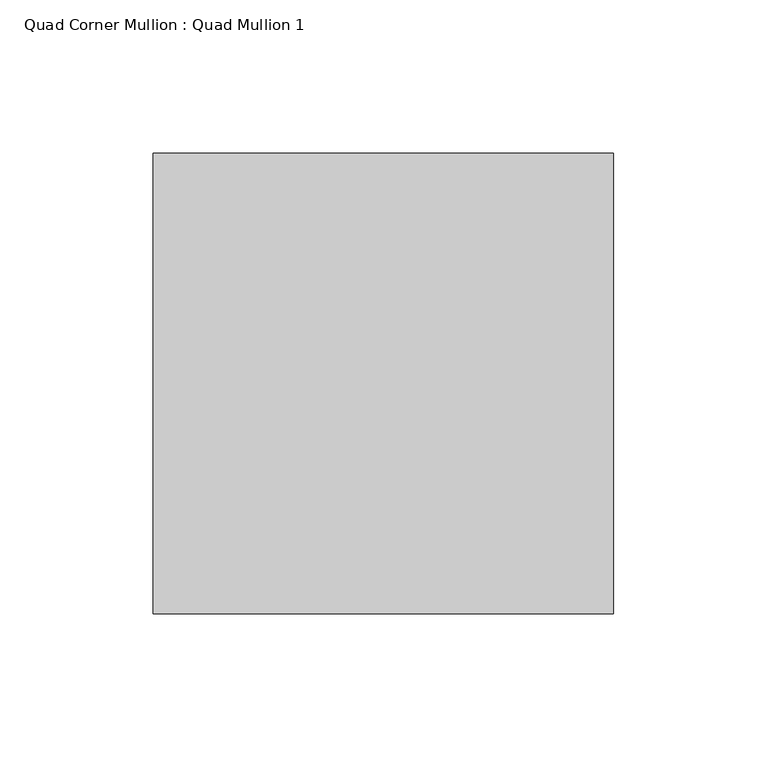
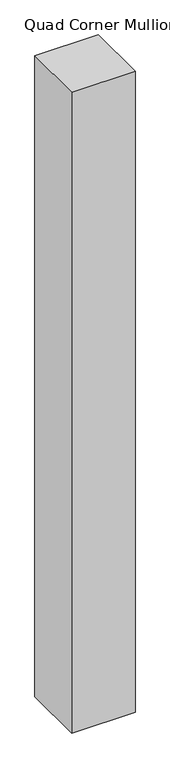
"""IFC4 building model written with IfcOpenShell, lengths in millimetres: member geometry, Quad Corner Mullion : Quad Mullion 1."""

from ifc_helpers import new_model, si_unit, frame, origin, place, context, project, spatial, polyline, outline, extrude, source, transform, mapped, element, save


def quad_corner_mullion_quad_mullion_1_db8797c5(model_context):
    return source(origin(), model_context, "Body", "SweptSolid", [
        extrude(outline(polyline([(75.0, 75.0), (75.0, -75.0), (-75.0, -75.0), (-75.0, 75.0), (75.0, 75.0)])), frame((0.0, 0.0, -1600.0), z_axis=(0.0, 0.0, 1.0), x_axis=(1.0, 0.0, 0.0)), (0.0, 0.0, 1.0), 1600.0),
    ])


if __name__ == "__main__":
    model = new_model("IFC4")
    model_context = context("Model", 3, world=origin())
    ifc_project = project(units=[si_unit("LENGTHUNIT", "METRE", prefix="MILLI")], contexts=[model_context])
    site = spatial("IfcSite", under=ifc_project)
    building = spatial("IfcBuilding", under=site)
    placement = place(None, origin())
    quad_corner_mullion_quad_mullion_1_shape = quad_corner_mullion_quad_mullion_1_db8797c5(model_context)
    element("IfcMember", 1, ObjectType="Quad Corner Mullion : Quad Mullion 1", at=placement, inside=building, context=model_context, shape_type="MappedRepresentation", body=[
        mapped(quad_corner_mullion_quad_mullion_1_shape, transform((0.0, 0.0, 0.0), x_axis=(1.0, 0.0, 0.0), y_axis=(0.0, 1.0, 0.0), z_axis=(0.0, 0.0, 1.0))),
    ])
    save(model, "model.ifc")
